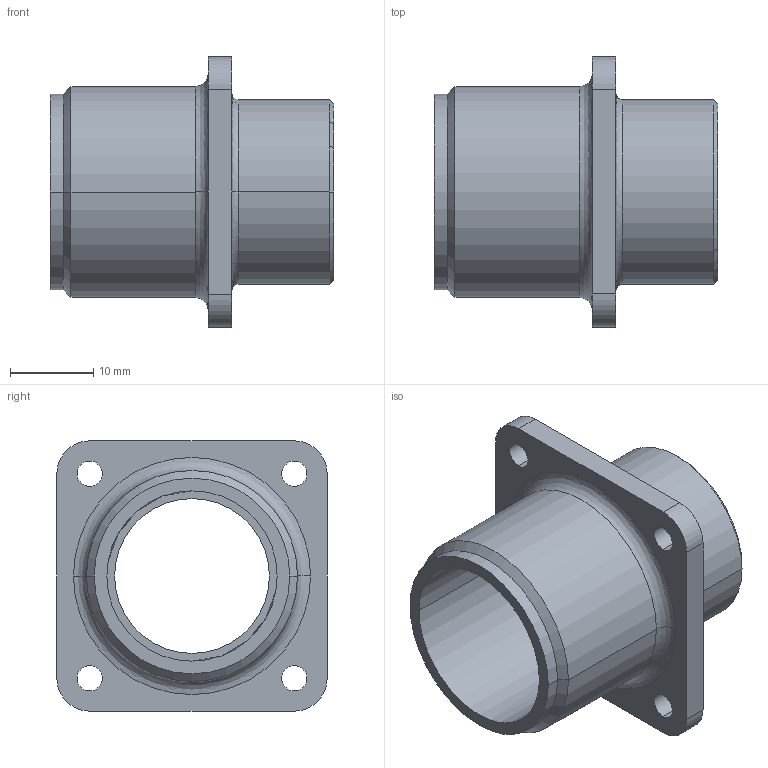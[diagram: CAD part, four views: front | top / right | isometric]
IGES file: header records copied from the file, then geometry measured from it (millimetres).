
Start section:  PTC IGES file: ms3102_16_shell.igs
Global section: file name: ms3102_16_shell.igs; native system: Creo Parametric by PTC Inc.; preprocessor: 2016260; author: t-nakamura; organization: Unknown; date: 20180228.103827; units: millimetre
Bounding box: 34.14 x 32.54 x 32.54 mm (x, y, z)
Surface area: 6292.3 mm2 (no closed solid volume)
Topology: 0 solids, 0 shells, 39 faces, 192 edges, 192 vertices
Faces by surface type: revolution 30, bspline 9
